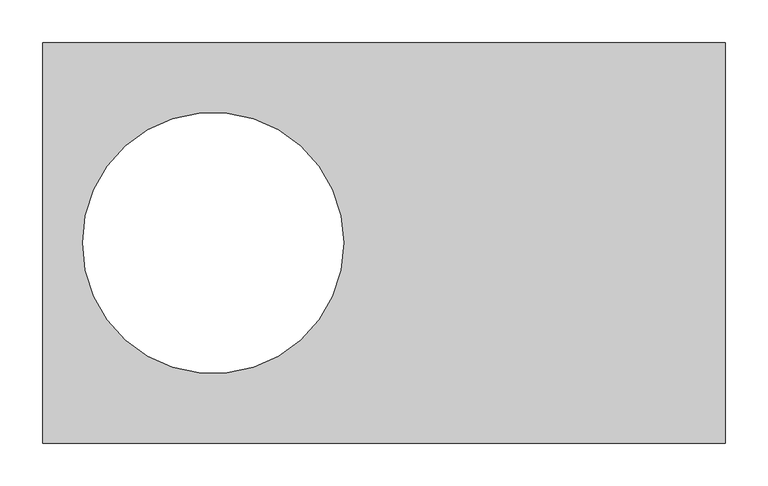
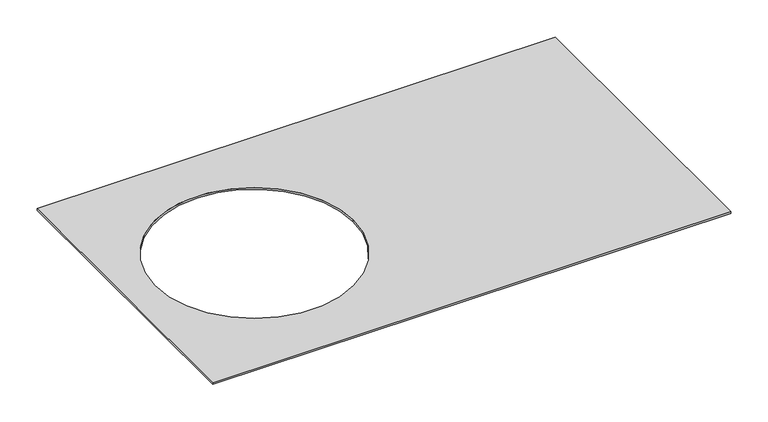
"""IFC4 building model written with IfcOpenShell, lengths in millimetres: proxy geometry, Electrical_Installation_Hager_Cover-R12-BKAD : Electrical_Installation_Hager_Cover-R12-BKAD."""

from ifc_helpers import new_model, si_unit, point, frame, frame_2d, origin, place, context, project, spatial, polyline, circle_curve, trimmed, segment, composite_curve, outline, extrude, source, transform, mapped, element, save


def electrical_fixtures_5628a288(model_context):
    return source(origin(), model_context, "Body", "SweptSolid", [
        extrude(outline(polyline([(800.0, 234.75), (800.0, -234.75), (0.0, -234.75), (0.0, 234.75), (800.0, 234.75)]), holes=[composite_curve([segment(trimmed(circle_curve(frame_2d((199.7148726, 0.0)), 153.0), [point((46.7148726, 0.0))], [point((352.7148726, 0.0))], True, "CARTESIAN"), True, "CONTINUOUS"), segment(trimmed(circle_curve(frame_2d((199.7148726, 0.0)), 153.0), [point((352.7148726, 0.0))], [point((46.7148726, 0.0))], True, "CARTESIAN"), True, "CONTINUOUS")], self_intersect=False)]), frame((0.0, 0.0, 10.0), z_axis=(0.0, 0.0, 1.0), x_axis=(1.0, 0.0, 0.0)), (0.0, 0.0, 1.0), 3.0),
    ])


if __name__ == "__main__":
    model = new_model("IFC4")
    model_context = context("Model", 3, world=origin())
    ifc_project = project(units=[si_unit("LENGTHUNIT", "METRE", prefix="MILLI")], contexts=[model_context])
    site = spatial("IfcSite", under=ifc_project)
    building = spatial("IfcBuilding", under=site)
    placement = place(None, origin())
    electrical_fixtures_shape = electrical_fixtures_5628a288(model_context)
    element("IfcBuildingElementProxy", 1, Name="Electrical_Installation_Hager_Cover-R12-BKAD : Electrical_Installation_Hager_Cover-R12-BKAD", ObjectType="Electrical_Installation_Hager_Cover-R12-BKAD : Electrical_Installation_Hager_Cover-R12-BKAD", at=placement, inside=building, context=model_context, shape_type="MappedRepresentation", body=[
        mapped(electrical_fixtures_shape, transform((0.0, 0.0, 0.0), x_axis=(1.0, 0.0, 0.0), y_axis=(0.0, 1.0, 0.0), z_axis=(0.0, 0.0, 1.0))),
    ])
    save(model, "model.ifc")
